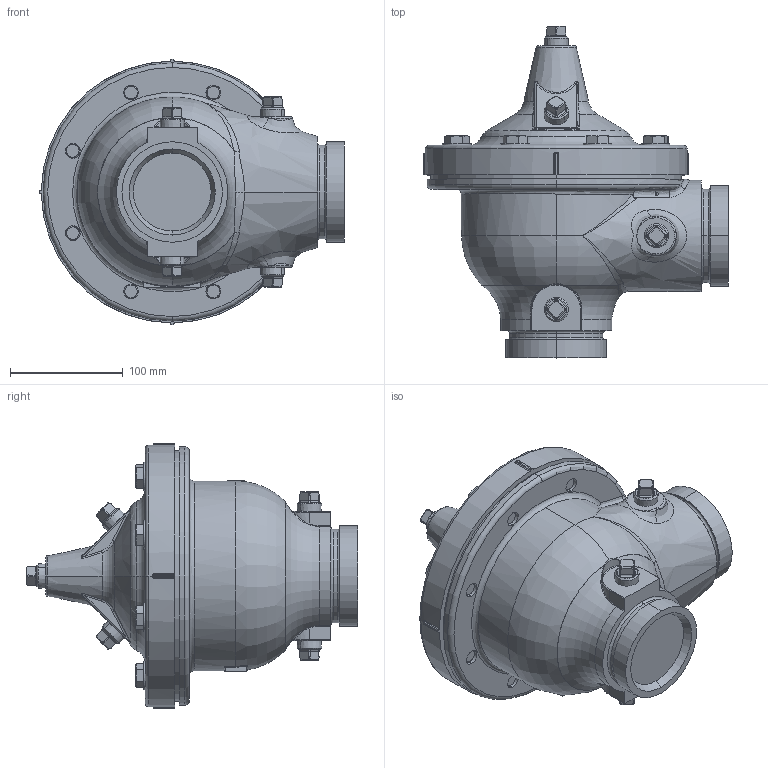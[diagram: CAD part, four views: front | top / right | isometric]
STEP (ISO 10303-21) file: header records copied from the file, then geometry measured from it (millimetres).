
FILE_DESCRIPTION (( 'STEP AP203' ), '1' );
FILE_NAME ('3in 2100-01 Main Valve, 300V.STEP', '2023-11-07T18:53:23', ( '' ), ( '' ), 'SwSTEP 2.0', 'SolidWorks 2022', '' );
FILE_SCHEMA (( 'CONFIG_CONTROL_DESIGN' ));
Length unit declared in the file: inch
Products named in the file (6): 3in Body 2100 300V (Red)_D.I.; 3in 2100-01 Main Valve, 300V; Bolt .500-13 UNC  (67607)_1.5   67607-74H; .500 NPT SQ HD PIPE PLUG (67660)_Default MONEL; 3in Cover (no core)_Default (NO CORE); WASHER, PLAIN FLAT FOR .500 SCREW (67750)_.500N   67750-04C
Assembly tree (25 placements, depth 2):
  3in 2100-01 Main Valve, 300V
    3in Body 2100 300V (Red)_D.I.
    3in Cover (no core)_Default (NO CORE)
    Bolt .500-13 UNC  (67607)_1.5   67607-74H  x8
    .500 NPT SQ HD PIPE PLUG (67660)_Default MONEL  x7
    WASHER, PLAIN FLAT FOR .500 SCREW (67750)_.500N   67750-04C  x8
Bounding box: 269.75 x 293.75 x 234.7 mm (x, y, z)
Volume: 4925644.7 mm3; surface area: 356682.3 mm2
Topology: 25 solids, 25 shells, 1192 faces, 2665 edges, 1466 vertices
Faces by surface type: cylinder 276, bspline 260, plane 225, cone 199, torus 140, sphere 92
Entity records: 24409 total; most frequent: CARTESIAN_POINT 11596, ORIENTED_EDGE 2490, DIRECTION 2379, EDGE_CURVE 1245, AXIS2_PLACEMENT_3D 1030, VERTEX_POINT 730, EDGE_LOOP 615, CIRCLE 589
